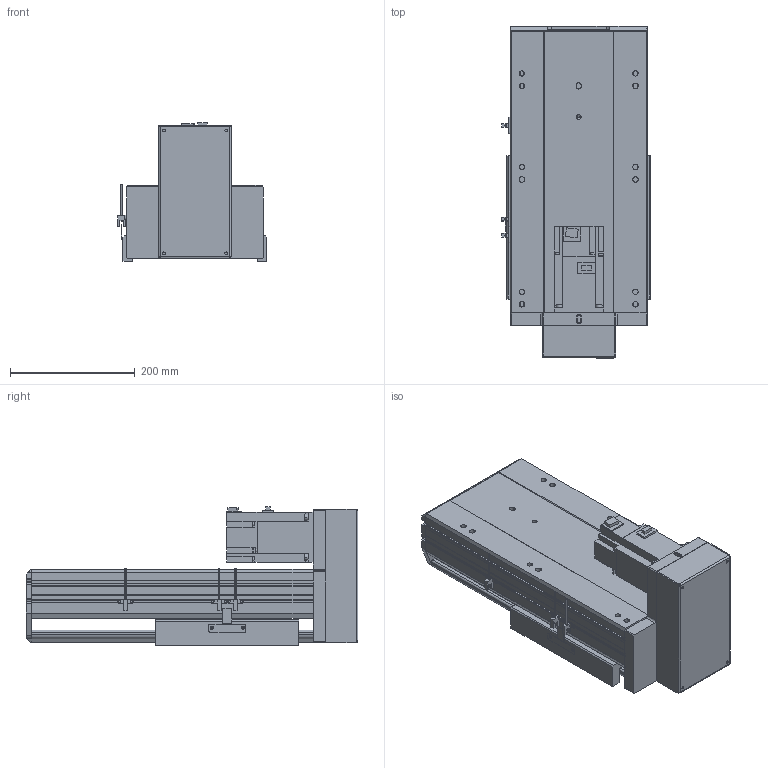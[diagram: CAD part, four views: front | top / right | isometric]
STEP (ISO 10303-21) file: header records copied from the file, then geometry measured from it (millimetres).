
FILE_DESCRIPTION (( 'STEP AP203' ), '1' );
FILE_NAME ('3.STEP', '2020-11-26T06:28:16', ( '' ), ( '' ), 'SwSTEP 2.0', 'SolidWorks 2016', '' );
FILE_SCHEMA (( 'CONFIG_CONTROL_DESIGN' ));
Length unit declared in the file: millimetre
Products named in the file (7): BTH22-BM-01; BTH22-BM-菁釱; BTH22-BM-04; 3; BTH22-BM-T75; BTH22-BM-02; BTH22-BM-HZ
Assembly tree (8 placements, depth 2):
  3
    BTH22-BM-菁釱
    BTH22-BM-01
    BTH22-BM-02
    BTH22-BM-04  x3
    BTH22-BM-HZ
    BTH22-BM-T75
Bounding box: 238.7 x 532 x 221.8 mm (x, y, z)
Volume: 7877962 mm3; surface area: 1130607 mm2
Topology: 11 solids, 11 shells, 990 faces, 2744 edges, 1783 vertices
Faces by surface type: plane 563, cylinder 377, cone 42, bspline 8
Entity records: 28909 total; most frequent: CARTESIAN_POINT 5672, ORIENTED_EDGE 4724, DIRECTION 4668, EDGE_CURVE 2362, LINE 1590, VECTOR 1590, VERTEX_POINT 1551, AXIS2_PLACEMENT_3D 1539
